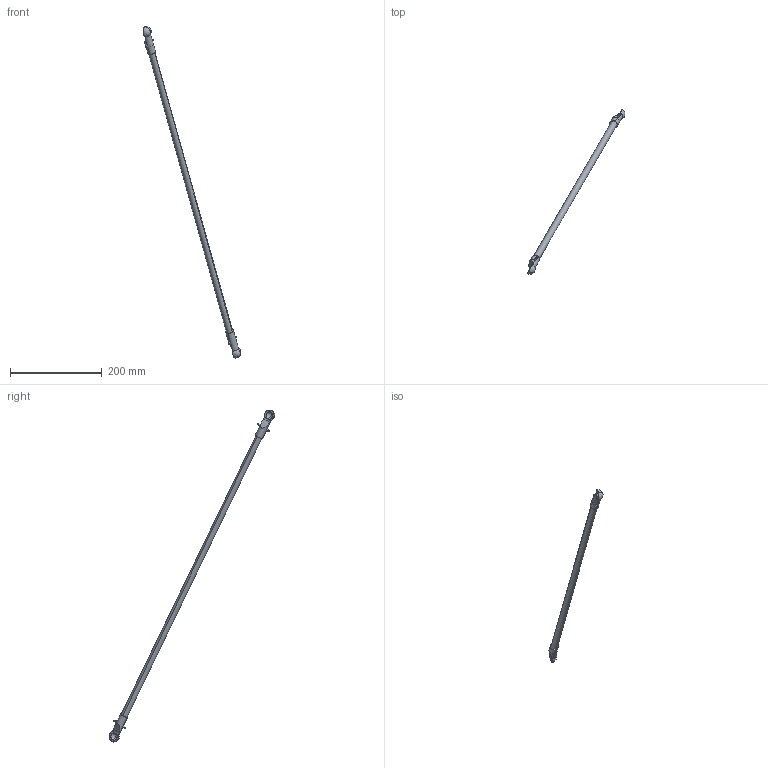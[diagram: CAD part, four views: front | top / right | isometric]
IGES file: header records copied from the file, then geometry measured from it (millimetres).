
Start section: SolidWorks IGES file using analytic representation for surfaces
Global section: file name: C:\Users\SELUHAA\Desktop\Work items\545792\IGES\IRB360_X-800-WD-4D_rev03_IGES_J\IRB360_X-800-WD-4D_rev03_LA2_2_CAD.IGS; native system: SolidWorks 2022; preprocessor: SolidWorks 2022; author: SELUHAA; date: 231128.135919; units: millimetre
Bounding box: 213.04 x 360.06 x 722.42 mm (x, y, z)
Surface area: 41260.7 mm2 (no closed solid volume)
Topology: 0 solids, 0 shells, 40 faces, 604 edges, 602 vertices
Faces by surface type: revolution 28, bspline 12
